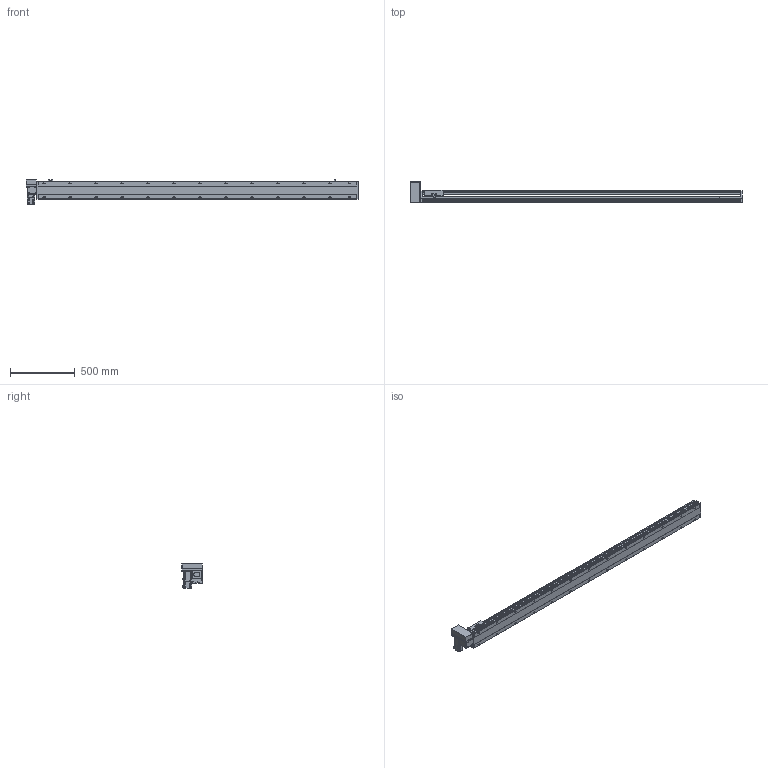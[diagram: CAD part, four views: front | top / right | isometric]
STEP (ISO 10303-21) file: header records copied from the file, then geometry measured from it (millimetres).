
FILE_DESCRIPTION( ( 'STEP AP214' ), '1' );
FILE_NAME( 'x:/temp/worker_6/temp/exporttempdir_5396_226_ETtG1/format_0/PBS140S-P40-S2200-RU-T40-C1-N(0).stp', '2022-06-09T00:56:30', ( 'License CC BY-ND 4.0' ), ( 'CADENAS' ), ' ', 'PARTsolutions', ' ' );
FILE_SCHEMA( ( 'AUTOMOTIVE_DESIGN { 1 0 10303 214 1 1 1 1 }' ) );
Length unit declared in the file: millimetre
Products named in the file (7): PBS140S-P40-S2200-RU-T40-C1-N(0); _PBS140S-S2200()_body; _PBS140ST-RU_motors; _T40-p1; _PBS140S_sliser; _PBS140S_plant; _PBS140S_sensor
Assembly tree (8 placements, depth 2):
  PBS140S-P40-S2200-RU-T40-C1-N(0)
    _PBS140S-S2200()_body
    _PBS140ST-RU_motors
    _T40-p1
    _PBS140S_sliser
    _PBS140S_plant
    _PBS140S_sensor  x3
Bounding box: 2554 x 162.5 x 189.7 mm (x, y, z)
Volume: 12504302 mm3; surface area: 2113137.5 mm2
Topology: 8 solids, 8 shells, 1179 faces, 3111 edges, 2035 vertices
Faces by surface type: plane 732, cylinder 385, cone 52, sphere 8, torus 2
Full cylindrical faces by diameter (mm): 3.242 x4, 4 x2, 4.134 x4, 4.4 x8, 4.5 x2, 4.8 x4, 4.917 x34, 5.5 x7, 6 x2, 7 x28, 7.5 x8, 8 x12, 8.5 x4, 10.5 x26, 14 x1, 30 x2, 50 x2
Entity records: 43546 total; most frequent: CARTESIAN_POINT 7246, DIRECTION 5698, ORIENTED_EDGE 5362, EDGE_CURVE 2681, AXIS2_PLACEMENT_3D 2009, VERTEX_POINT 1873, LINE 1680, VECTOR 1680
